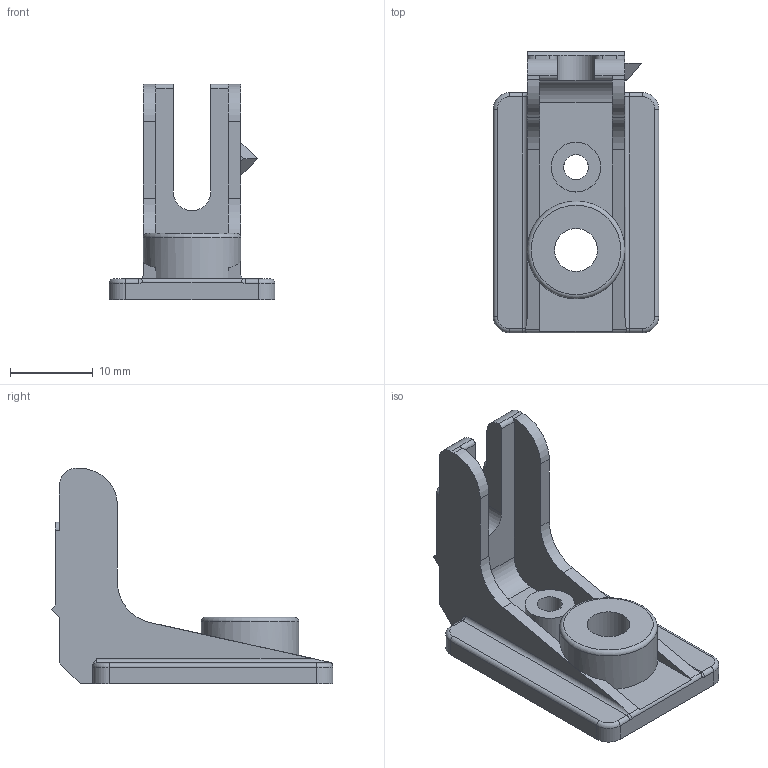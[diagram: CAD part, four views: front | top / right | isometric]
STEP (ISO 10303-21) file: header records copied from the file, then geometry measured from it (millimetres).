
FILE_DESCRIPTION(/* description */ (''),/* implementation_level */ '2;1');
FILE_NAME(/* name */ '94_MZAW',/* time_stamp */ '2014-08-14T14:34:58+02:00',/* author */ (''),/* organization */ (''),/* preprocessor_version */ 'ST-DEVELOPER v9',/* originating_system */ 'UGS - NX 4.0',/* authorisation */ '');
FILE_SCHEMA (('CONFIG_CONTROL_DESIGN'));
Length unit declared in the file: millimetre
Products named in the file (1): MTroCB04a6vq
Bounding box: 20 x 34 x 26 mm (x, y, z)
Volume: 3090.5 mm3; surface area: 3076.3 mm2
Topology: 1 solids, 1 shells, 84 faces, 222 edges, 142 vertices
Faces by surface type: plane 42, cylinder 31, torus 9, cone 2
Full cylindrical faces by diameter (mm): 3 x1, 5.188 x1, 6 x1, 11.8 x1
Entity records: 2694 total; most frequent: CARTESIAN_POINT 501, DIRECTION 457, ORIENTED_EDGE 426, EDGE_CURVE 213, AXIS2_PLACEMENT_3D 165, VERTEX_POINT 140, LINE 127, VECTOR 127
